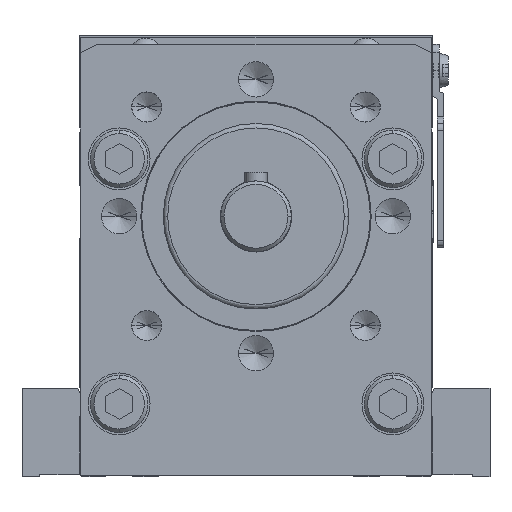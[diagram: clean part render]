
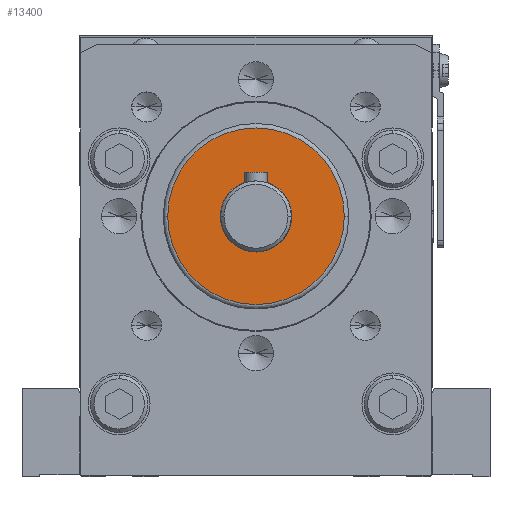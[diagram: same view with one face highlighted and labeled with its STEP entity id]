
A CAD part, front view. The second image highlights one B-rep face of the part: STEP entity #13400.
In plain terms, the highlighted planar face has unit normal (0, -1, 0) as drawn and (0, 0, 1) by its records, which use the part's own axes.
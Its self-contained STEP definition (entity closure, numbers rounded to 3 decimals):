
#12910=CARTESIAN_POINT('',(1630.05,135.16,
395.));
#12920=VERTEX_POINT('',#12910);
#13010=CARTESIAN_POINT('',(1590.05,135.16,
395.));
#13020=VERTEX_POINT('',#13010);
#13050=CARTESIAN_POINT('',(1610.05,135.16,
395.));
#13060=DIRECTION('',(0.,0.,-1.));
#13070=DIRECTION('',(-1.,0.,0.));
#13080=AXIS2_PLACEMENT_3D('',#13050,#13060,#13070);
#13090=CIRCLE('',#13080,20.);
#13100=EDGE_CURVE('',#12920,#13020,#13090,.T.);
#13150=CARTESIAN_POINT('',(1601.384,132.673,
395.));
#13160=DIRECTION('',(0.,0.,-1.));
#13170=DIRECTION('',(-1.,0.,0.));
#13180=AXIS2_PLACEMENT_3D('',#13150,#13160,#13170);
#13190=PLANE('',#13180);
#13200=EDGE_CURVE('',#13020,#12920,#13090,.T.);
#13210=ORIENTED_EDGE('',*,*,#13200,.F.);
#13220=ORIENTED_EDGE('',*,*,#13100,.F.);
#13230=EDGE_LOOP('',(#13220,#13210));
#13240=FACE_OUTER_BOUND('',#13230,.T.);
#13250=CARTESIAN_POINT('',(1610.05,135.16,
395.));
#13260=DIRECTION('',(0.,0.,-1.));
#13270=DIRECTION('',(-1.,0.,0.));
#13280=AXIS2_PLACEMENT_3D('',#13250,#13260,#13270);
#13290=CIRCLE('',#13280,8.1);
#13300=CARTESIAN_POINT('',(1601.95,135.16,
395.));
#13310=VERTEX_POINT('',#13300);
#13320=CARTESIAN_POINT('',(1618.15,135.16,
395.));
#13330=VERTEX_POINT('',#13320);
#13340=EDGE_CURVE('',#13310,#13330,#13290,.T.);
#13350=ORIENTED_EDGE('',*,*,#13340,.T.);
#13360=EDGE_CURVE('',#13330,#13310,#13290,.T.);
#13370=ORIENTED_EDGE('',*,*,#13360,.T.);
#13380=EDGE_LOOP('',(#13370,#13350));
#13390=FACE_BOUND('',#13380,.T.);
#13400=ADVANCED_FACE('',(#13240,#13390),#13190,.F.);
